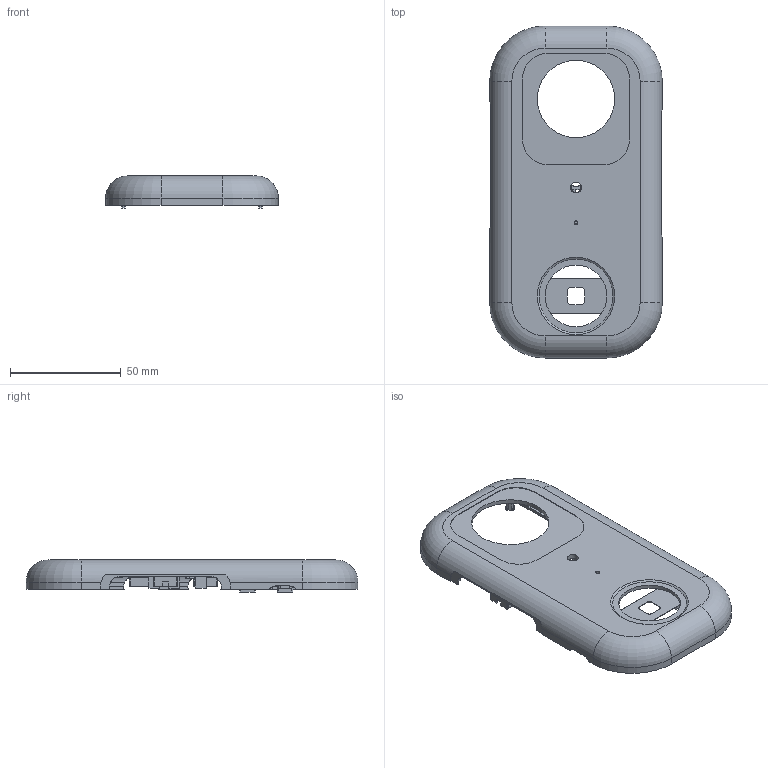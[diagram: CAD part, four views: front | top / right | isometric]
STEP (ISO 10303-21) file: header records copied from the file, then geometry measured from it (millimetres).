
FILE_DESCRIPTION(/* description */ (''),/* implementation_level */ '2;1');
FILE_NAME(/* name */ 'C28_R1_01_Front_Shell_Chalk_Mesh_Round_Controls.step',/* time_stamp */ '2026-09-10T13:08:40-07:00',/* author */ (''),/* organization */ (''),/* preprocessor_version */ 'ST-DEVELOPER v20.1',/* originating_system */ 'Autodesk Translation Framework v15.8.0.0',/* authorisation */ '');
FILE_SCHEMA (('AUTOMOTIVE_DESIGN { 1 0 10303 214 3 1 1 }'));
Length unit declared in the file: millimetre
Products named in the file (1): 2026-09-10-13-08-40-410
Bounding box: 78 x 150 x 14.51 mm (x, y, z)
Volume: 31323.4 mm3; surface area: 34378.6 mm2
Topology: 1 solids, 1 shells, 828 faces, 2372 edges, 1564 vertices
Faces by surface type: plane 470, cylinder 341, cone 9, torus 8
Full cylindrical faces by diameter (mm): 1.7 x10, 1.8 x1, 2.1 x4, 2.2 x1, 3 x4, 4.2 x4, 4.9 x1, 5.3 x1, 5.5 x1, 27.9 x1, 35 x1
Entity records: 28308 total; most frequent: CARTESIAN_POINT 5928, ORIENTED_EDGE 4744, DIRECTION 4737, EDGE_CURVE 2372, AXIS2_PLACEMENT_3D 1619, VERTEX_POINT 1564, LINE 1499, VECTOR 1499
